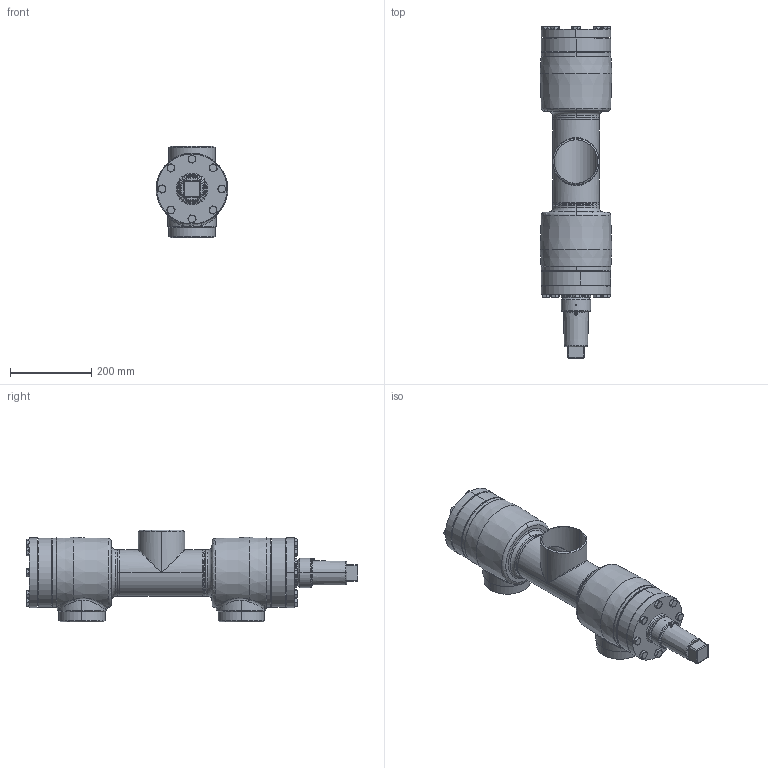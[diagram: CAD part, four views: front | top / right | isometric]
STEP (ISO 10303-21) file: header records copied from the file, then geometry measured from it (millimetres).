
FILE_DESCRIPTION (( 'STEP AP214' ), '1' );
FILE_NAME ('WVR24000D19-DN100_R1_PS40.STEP', '2010-09-08T08:24:30', ( 'Eckhard Grams' ), ( 'AWP Kälte Klima Armaturen GmbH' ), 'SwSTEP 2.0', 'SolidWorks 2002296', '' );
FILE_SCHEMA (( 'AUTOMOTIVE_DESIGN' ));
Length unit declared in the file: millimetre
Products named in the file (15): WVR24000D19-DN100_R1_PS40; AVR26300E19_Deck+Schr-DN100_Standard; Deckel26300E19-DN100_Standard; Geh,kpl23000E19-DN100_R1_PS40_Standard; T-Stück DIN2615_DN100; Gehäuse23000E19-DN100_R1_PS40_Standard; Kopfstück16300-DN100_Standard; bead23000-19-1_Standard; bead23000-19-1kopf_Standard; bead23000-19-2_Standard; bead23000-19-2kopf_Standard; Kappe 16402-19_DN80-100 (M60x3)_Standard; WVB-R23000E19_Deck+Schr-DN100_Standard; Deckel23000E19-DN100_Standard; Sechskantschraube-DIN933_M12x 35
Assembly tree (31 placements, depth 3):
  WVR24000D19-DN100_R1_PS40
    Kappe 16402-19_DN80-100 (M60x3)_Standard
    Geh,kpl23000E19-DN100_R1_PS40_Standard
      bead23000-19-2_Standard
      Kopfstück16300-DN100_Standard  x2
      Gehäuse23000E19-DN100_R1_PS40_Standard  x2
      T-Stück DIN2615_DN100
      bead23000-19-2kopf_Standard
      bead23000-19-1kopf_Standard
      bead23000-19-1_Standard
    AVR26300E19_Deck+Schr-DN100_Standard
      Sechskantschraube-DIN933_M12x 35  x8
      Deckel26300E19-DN100_Standard
    WVB-R23000E19_Deck+Schr-DN100_Standard
      Sechskantschraube-DIN933_M12x 35  x8
      Deckel23000E19-DN100_Standard
Bounding box: 176.38 x 816.5 x 225 mm (x, y, z)
Volume: 5377475.6 mm3; surface area: 982700.2 mm2
Topology: 28 solids, 28 shells, 725 faces, 1581 edges, 938 vertices
Faces by surface type: cone 279, plane 202, cylinder 178, bspline 40, torus 26
Entity records: 32890 total; most frequent: CARTESIAN_POINT 25276, DIRECTION 1436, ORIENTED_EDGE 1338, EDGE_CURVE 669, AXIS2_PLACEMENT_3D 620, VERTEX_POINT 411, EDGE_LOOP 364, CIRCLE 322
